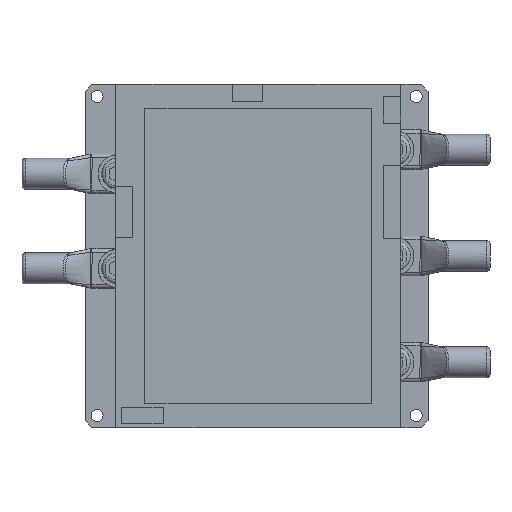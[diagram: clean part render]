
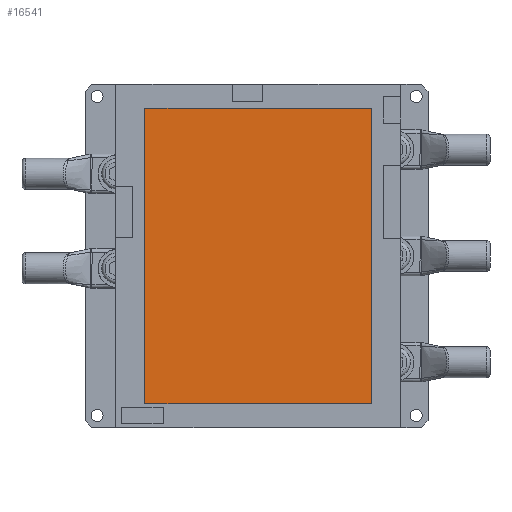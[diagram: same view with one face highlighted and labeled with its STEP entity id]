
A CAD part, front view. The second image highlights one B-rep face of the part: STEP entity #16541.
In plain terms, the highlighted planar face has unit normal (0, -1, 0).
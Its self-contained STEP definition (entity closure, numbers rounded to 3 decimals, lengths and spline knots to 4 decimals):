
#573=LINE('',#28500,#1847);
#576=LINE('',#28506,#1850);
#579=LINE('',#28512,#1853);
#582=LINE('',#28516,#1856);
#1847=VECTOR('',#19071,3.3858);
#1850=VECTOR('',#19076,2.5984);
#1853=VECTOR('',#19081,3.3858);
#1856=VECTOR('',#19086,2.5984);
#3104=PLANE('',#17553);
#3617=FACE_OUTER_BOUND('',#4627,.T.);
#4627=EDGE_LOOP('',(#11400,#11401,#11402,#11403));
#7130=VERTEX_POINT('',#28497);
#7131=VERTEX_POINT('',#28499);
#7133=VERTEX_POINT('',#28505);
#7135=VERTEX_POINT('',#28511);
#8786=EDGE_CURVE('',#7131,#7130,#573,.T.);
#8789=EDGE_CURVE('',#7133,#7131,#576,.T.);
#8792=EDGE_CURVE('',#7135,#7133,#579,.T.);
#8795=EDGE_CURVE('',#7130,#7135,#582,.T.);
#11400=ORIENTED_EDGE('',*,*,#8795,.T.);
#11401=ORIENTED_EDGE('',*,*,#8792,.T.);
#11402=ORIENTED_EDGE('',*,*,#8789,.T.);
#11403=ORIENTED_EDGE('',*,*,#8786,.T.);
#16541=ADVANCED_FACE('',(#3617),#3104,.T.);
#17553=AXIS2_PLACEMENT_3D('',#28517,#19087,#19088);
#19071=DIRECTION('',(0.,0.,-1.));
#19076=DIRECTION('',(-1.,0.,0.));
#19081=DIRECTION('',(0.,0.,1.));
#19086=DIRECTION('',(1.,0.,0.));
#19087=DIRECTION('center_axis',(0.,-1.,0.));
#19088=DIRECTION('ref_axis',(0.,0.,-1.));
#28497=CARTESIAN_POINT('',(-1.3176,-1.3706,-1.7343));
#28499=CARTESIAN_POINT('',(-1.3176,-1.3706,1.6515));
#28500=CARTESIAN_POINT('',(-1.3176,-1.3706,-1.7343));
#28505=CARTESIAN_POINT('',(1.2808,-1.3706,1.6515));
#28506=CARTESIAN_POINT('',(-1.3176,-1.3706,1.6515));
#28511=CARTESIAN_POINT('',(1.2808,-1.3706,-1.7343));
#28512=CARTESIAN_POINT('',(1.2808,-1.3706,1.6515));
#28516=CARTESIAN_POINT('',(1.2808,-1.3706,-1.7343));
#28517=CARTESIAN_POINT('Origin',(-0.0184,-1.3706,
-0.0414));
